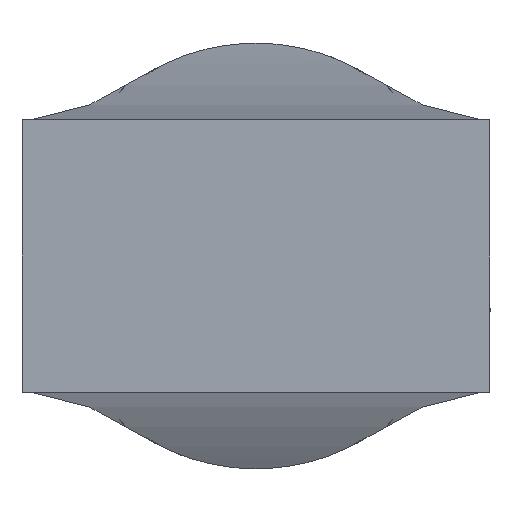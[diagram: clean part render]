
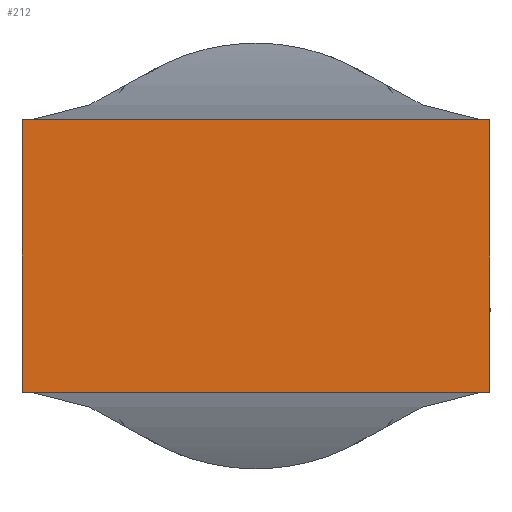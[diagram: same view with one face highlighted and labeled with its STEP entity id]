
A CAD part, left-side view. The second image highlights one B-rep face of the part: STEP entity #212.
In plain terms, the highlighted planar face has unit normal (-1, 0, 0).
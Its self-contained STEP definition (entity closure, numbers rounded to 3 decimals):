
#25 = DIRECTION ( 'NONE',  ( 0., -1., 0. ) ) ;
#40 = DIRECTION ( 'NONE',  ( -1., 0., 0. ) ) ;
#44 = LINE ( 'NONE', #270, #558 ) ;
#79 = CARTESIAN_POINT ( 'NONE',  ( 0., -122.75, 0. ) ) ;
#147 = CARTESIAN_POINT ( 'NONE',  ( 0., -120., 0. ) ) ;
#150 = CARTESIAN_POINT ( 'NONE',  ( 0., -122.75, 1.6 ) ) ;
#184 = LINE ( 'NONE', #586, #362 ) ;
#212 = ADVANCED_FACE ( 'NONE', ( #560 ), #643, .T. ) ;
#270 = CARTESIAN_POINT ( 'NONE',  ( 0., -117.25, 0. ) ) ;
#322 = VERTEX_POINT ( 'NONE', #150 ) ;
#362 = VECTOR ( 'NONE', #25, 1000. ) ;
#407 = VERTEX_POINT ( 'NONE', #555 ) ;
#443 = LINE ( 'NONE', #716, #543 ) ;
#456 = VECTOR ( 'NONE', #691, 1000. ) ;
#464 = VERTEX_POINT ( 'NONE', #631 ) ;
#469 = CARTESIAN_POINT ( 'NONE',  ( 0., -117.25, -1.6 ) ) ;
#478 = DIRECTION ( 'NONE',  ( 0., 0., 1. ) ) ;
#486 = LINE ( 'NONE', #79, #456 ) ;
#498 = AXIS2_PLACEMENT_3D ( 'NONE', #147, #40, #478 ) ;
#504 = VERTEX_POINT ( 'NONE', #469 ) ;
#505 = ORIENTED_EDGE ( 'NONE', *, *, #506, .T. ) ;
#506 = EDGE_CURVE ( 'NONE', #407, #322, #486, .T. ) ;
#533 = EDGE_CURVE ( 'NONE', #504, #407, #184, .T. ) ;
#543 = VECTOR ( 'NONE', #599, 1000. ) ;
#547 = EDGE_CURVE ( 'NONE', #464, #504, #44, .T. ) ;
#555 = CARTESIAN_POINT ( 'NONE',  ( 0., -122.75, -1.6 ) ) ;
#558 = VECTOR ( 'NONE', #651, 1000. ) ;
#560 = FACE_OUTER_BOUND ( 'NONE', #694, .T. ) ;
#566 = ORIENTED_EDGE ( 'NONE', *, *, #533, .T. ) ;
#586 = CARTESIAN_POINT ( 'NONE',  ( 0., -120., -1.6 ) ) ;
#588 = EDGE_CURVE ( 'NONE', #464, #322, #443, .T. ) ;
#599 = DIRECTION ( 'NONE',  ( 0., -1., 0. ) ) ;
#607 = ORIENTED_EDGE ( 'NONE', *, *, #547, .T. ) ;
#628 = ORIENTED_EDGE ( 'NONE', *, *, #588, .F. ) ;
#631 = CARTESIAN_POINT ( 'NONE',  ( 0., -117.25, 1.6 ) ) ;
#643 = PLANE ( 'NONE',  #498 ) ;
#651 = DIRECTION ( 'NONE',  ( 0., 0., -1. ) ) ;
#691 = DIRECTION ( 'NONE',  ( 0., 0., 1. ) ) ;
#694 = EDGE_LOOP ( 'NONE', ( #505, #628, #607, #566 ) ) ;
#716 = CARTESIAN_POINT ( 'NONE',  ( 0., -120., 1.6 ) ) ;
